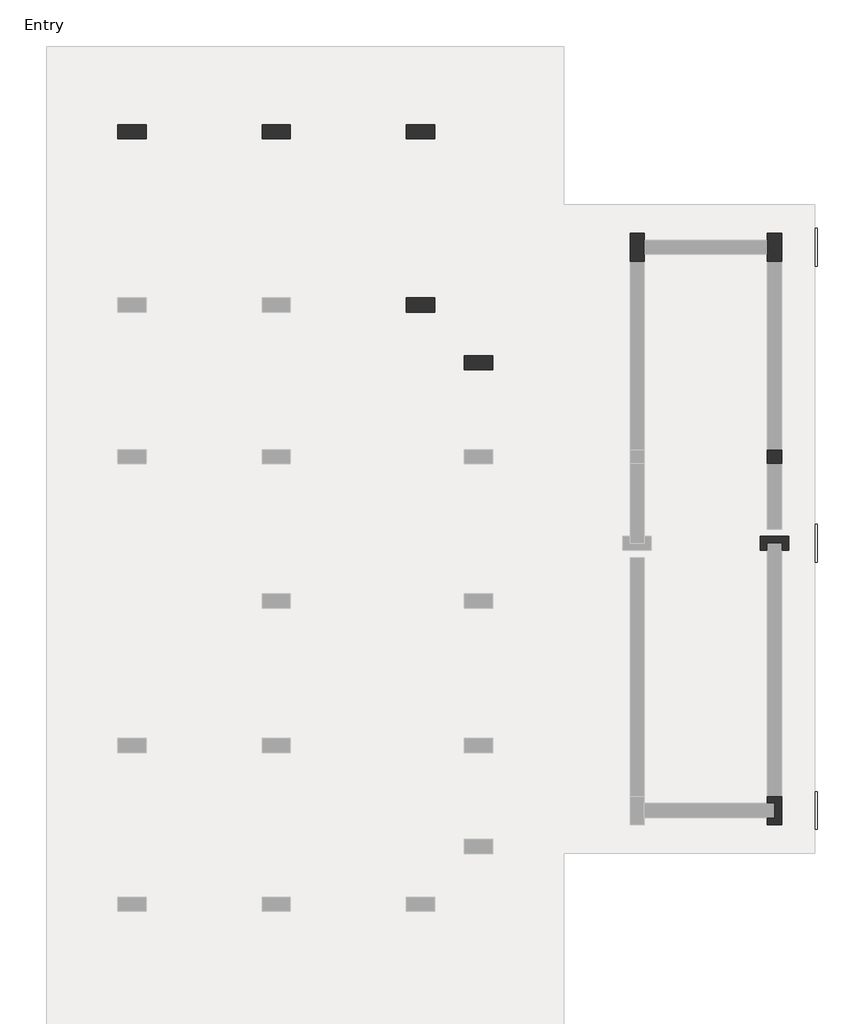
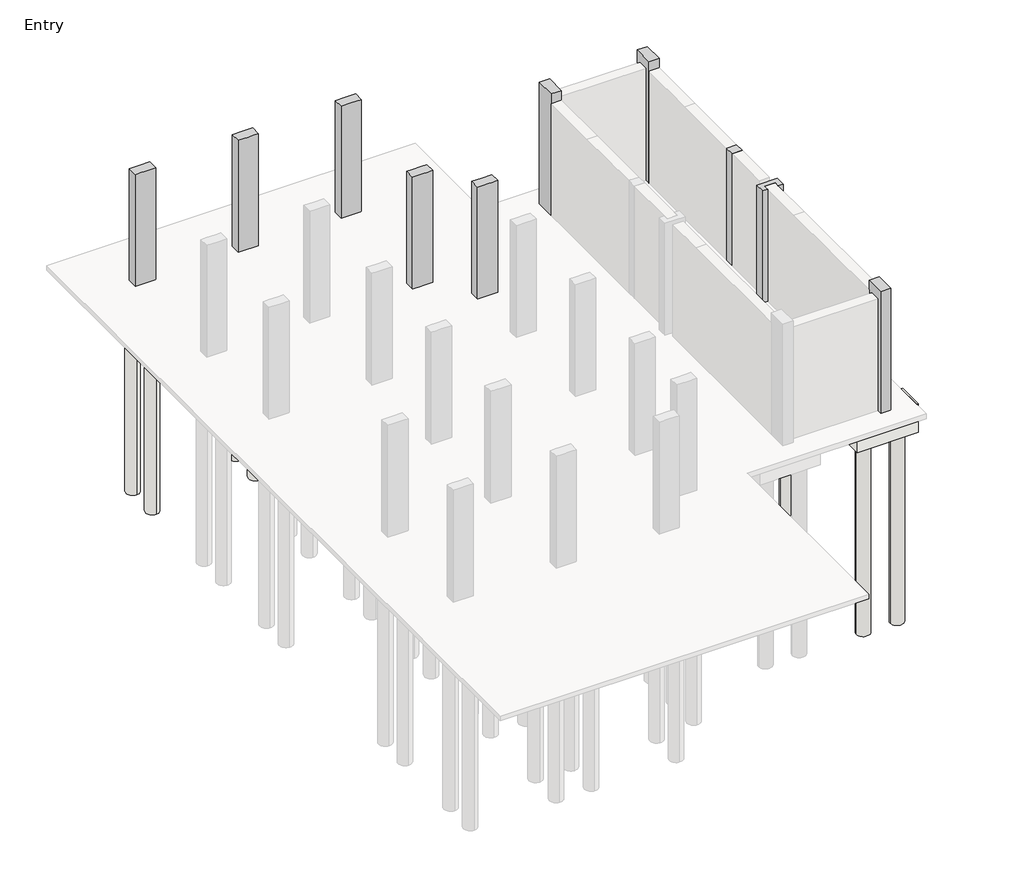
# One storey, part 3 of 3: 32 slabs, 10 columns, 5 footings.
"""IFC4 building model written with IfcOpenShell, lengths in millimetres."""

import ifcopenshell
import ifcopenshell.guid

model = None  # the IFC model being written
_history = None  # IfcOwnerHistory: only IFC2X3 demands one
_inside = {}  # id of a spatial element -> (the spatial element, [elements in it])
_under = {}  # id of a project, library or spatial element -> (it, [spatial elements below it])
_declared = {}  # id of a project -> (the project, [libraries it declares])
_typed = {}  # id of a type object -> (the type object, [elements of that type])
_made_of = {}  # id of a material, layer set ... -> (it, [elements and type objects made of it])


def new_model(schema):
    """Start an empty IFC model of exactly this schema.

    Asked for "IFC4X3", IfcOpenShell would pick the latest addendum, in which some entities
    have other attributes; the version numbers below select the first issue.
    IFC2X3 requires an IfcOwnerHistory on every rooted entity: one is made here for all.
    """
    global model, _history
    if schema == "IFC4X3":
        model = ifcopenshell.file(schema_version=(4, 3, 0, 0))
    else:
        model = ifcopenshell.file(schema=schema)
    _inside.clear()
    _under.clear()
    _declared.clear()
    _typed.clear()
    _made_of.clear()
    _history = None
    if model.schema == "IFC2X3":
        org = make("IfcOrganization", Name="unknown")
        user = make(
            "IfcPersonAndOrganization",
            ThePerson=make("IfcPerson", FamilyName="unknown"),
            TheOrganization=org,
        )
        app = make(
            "IfcApplication",
            ApplicationDeveloper=org,
            Version="unknown",
            ApplicationFullName="unknown",
            ApplicationIdentifier="unknown",
        )
        _history = make(
            "IfcOwnerHistory",
            OwningUser=user,
            OwningApplication=app,
            ChangeAction="ADDED",
            CreationDate=0,
        )
    return model


def make(cls, **values):
    """One entity of the class cls with the attributes given. An attribute that is None is left unset."""
    return model.create_entity(
        cls, **{name: value for name, value in values.items() if value is not None}
    )


def rooted(cls, **values):
    """An entity with a GlobalId (a new one), such as an element, a storey or a relation."""
    return make(cls, GlobalId=ifcopenshell.guid.new(), OwnerHistory=_history, **values)


def si_unit(unit_type, name, prefix=None):
    """IfcSIUnit, for example si_unit("LENGTHUNIT", "METRE", prefix="MILLI")."""
    return make("IfcSIUnit", UnitType=unit_type, Prefix=prefix, Name=name)


def assignment(units):
    """IfcUnitAssignment: the units of a project."""
    return None if units is None else make("IfcUnitAssignment", Units=units)


def point(xyz):
    """IfcCartesianPoint."""
    return None if xyz is None else make("IfcCartesianPoint", Coordinates=xyz)


def direction(xyz):
    """IfcDirection."""
    return None if xyz is None else make("IfcDirection", DirectionRatios=xyz)


def frame(location, z_axis=None, x_axis=None):
    """IfcAxis2Placement3D, a coordinate frame: its origin and axes. An axis left out is left unset."""
    return make(
        "IfcAxis2Placement3D",
        Location=point(location),
        Axis=direction(z_axis),
        RefDirection=direction(x_axis),
    )


def frame_2d(location, x_axis=None):
    """IfcAxis2Placement2D, a coordinate frame in the plane: its origin and x axis."""
    return make(
        "IfcAxis2Placement2D", Location=point(location), RefDirection=direction(x_axis)
    )


def origin():
    """The frame at (0, 0, 0) with its axes left unset."""
    return frame((0.0, 0.0, 0.0))


def origin_with_axes():
    """The frame at (0, 0, 0) with the z axis (0, 0, 1) and the x axis (1, 0, 0) written out."""
    return frame((0.0, 0.0, 0.0), z_axis=(0.0, 0.0, 1.0), x_axis=(1.0, 0.0, 0.0))


def place(relative_to, where):
    """IfcLocalPlacement: puts the frame where relative to a parent placement (None: the world)."""
    return make(
        "IfcLocalPlacement", PlacementRelTo=relative_to, RelativePlacement=where
    )


def context(
    kind, dimensions, precision=None, world=None, true_north=None, identifier=None
):
    """IfcGeometricRepresentationContext, for example the 3D "Model" context."""
    return make(
        "IfcGeometricRepresentationContext",
        ContextIdentifier=identifier,
        ContextType=kind,
        CoordinateSpaceDimension=dimensions,
        Precision=precision,
        WorldCoordinateSystem=world,
        TrueNorth=true_north,
    )


def project(units=None, contexts=None):
    """IfcProject with its units and contexts."""
    return rooted(
        "IfcProject",
        Name="project",
        RepresentationContexts=contexts,
        UnitsInContext=assignment(units),
    )


def spatial(cls, under=None, at=None, **own):
    """A site, building, storey or space (cls), placed at a placement, below another one or the project."""
    s = rooted(cls, ObjectPlacement=at, **own)
    if under is not None:
        _under.setdefault(under.id(), (under, []))[1].append(s)
    return s


def polyline(points):
    """IfcPolyline through the points."""
    return make("IfcPolyline", Points=[point(p) for p in points])


def circle_curve(where, radius):
    """IfcCircle in the frame where."""
    return make("IfcCircle", Position=where, Radius=radius)


def trimmed(basis, trim1, trim2, sense, master):
    """IfcTrimmedCurve: the piece of a basis curve between two trims."""
    return make(
        "IfcTrimmedCurve",
        BasisCurve=basis,
        Trim1=trim1,
        Trim2=trim2,
        SenseAgreement=sense,
        MasterRepresentation=master,
    )


def segment(curve, same_sense, transition):
    """IfcCompositeCurveSegment."""
    return make(
        "IfcCompositeCurveSegment",
        Transition=transition,
        SameSense=same_sense,
        ParentCurve=curve,
    )


def composite_curve(segments, self_intersect=None):
    """IfcCompositeCurve: segments joined end to end."""
    return make("IfcCompositeCurve", Segments=segments, SelfIntersect=self_intersect)


def outline(outer, holes=None, kind="AREA"):
    """IfcArbitraryClosedProfileDef: a profile drawn as a closed curve; with holes, ...WithVoids."""
    if holes is None:
        return make("IfcArbitraryClosedProfileDef", ProfileType=kind, OuterCurve=outer)
    return make(
        "IfcArbitraryProfileDefWithVoids",
        ProfileType=kind,
        OuterCurve=outer,
        InnerCurves=holes,
    )


def extrude(swept, where, along, depth):
    """IfcExtrudedAreaSolid: the profile swept, set in the frame where, extruded along a direction by depth."""
    return make(
        "IfcExtrudedAreaSolid",
        SweptArea=swept,
        Position=where,
        ExtrudedDirection=direction(along),
        Depth=depth,
    )


def faces_of(points, faces, orient=None, outer=None):
    """IfcFace entities. A face is a list of loops; a loop is a list of indices into points, from 0.

    orient and outer hold one flag for each loop. By default every Orientation is true, the
    first loop of a face is its IfcFaceOuterBound and the others are IfcFaceBound.
    """
    made = []
    for i, loops in enumerate(faces):
        bounds = []
        for j, loop in enumerate(loops):
            is_outer = j == 0 if outer is None else outer[i][j]
            bounds.append(
                make(
                    "IfcFaceOuterBound" if is_outer else "IfcFaceBound",
                    Bound=make("IfcPolyLoop", Polygon=[points[k] for k in loop]),
                    Orientation=True if orient is None else orient[i][j],
                )
            )
        made.append(make("IfcFace", Bounds=bounds))
    return made


def faceted_brep(points, faces, orient=None, outer=None, voids=None):
    """IfcFacetedBrep: a solid bounded by flat faces; with voids (closed shells), ...WithVoids."""
    shared = [point(p) for p in points]
    hull = make("IfcClosedShell", CfsFaces=faces_of(shared, faces, orient, outer))
    if voids is None:
        return make("IfcFacetedBrep", Outer=hull)
    return make(
        "IfcFacetedBrepWithVoids",
        Outer=hull,
        Voids=[
            make(cls, CfsFaces=faces_of(shared, fs, o, b)) for cls, fs, o, b in voids
        ],
    )


def shape(context_of_items, identifier, shape_type, items):
    """IfcShapeRepresentation: the items that make up one representation, for example the "Body"."""
    return make(
        "IfcShapeRepresentation",
        ContextOfItems=context_of_items,
        RepresentationIdentifier=identifier,
        RepresentationType=shape_type,
        Items=items,
    )


def made_of(thing, what):
    """Note that an element or type object is made of a material, layer set ...; save() writes the relation."""
    if what is not None:
        _made_of.setdefault(what.id(), (what, []))[1].append(thing)
    return thing


def element(
    cls,
    number,
    at=None,
    inside=None,
    cuts=None,
    type_object=None,
    material=None,
    context=None,
    identifier="Body",
    shape_type=None,
    held_by="IfcProductDefinitionShape",
    body=None,
    shapes=None,
    **own,
):
    """One element of the class cls, such as IfcWall. Its Tag is "e" and its number.

    at: its placement. inside: the storey or other place that contains it. cuts: it is an
    opening in that element (IfcRelVoidsElement). A single representation is given by context,
    identifier, shape_type and body (its items); several are given by shapes. held_by: the class
    of the entity that holds the representations. save() writes the other relations.
    """
    e = rooted(cls, Tag="e%d" % number, ObjectPlacement=at, **own)
    if body is not None:
        shapes = [shape(context, identifier, shape_type, body)]
    if shapes is not None:
        e.Representation = make(held_by, Representations=shapes)
    if inside is not None:
        _inside.setdefault(inside.id(), (inside, []))[1].append(e)
    if cuts is not None:
        rooted(
            "IfcRelVoidsElement", RelatingBuildingElement=cuts, RelatedOpeningElement=e
        )
    if type_object is not None:
        _typed.setdefault(type_object.id(), (type_object, []))[1].append(e)
    return made_of(e, material)


def aggregate(whole, parts):
    """IfcRelAggregates: a whole, such as a stair, and the parts it consists of."""
    return rooted("IfcRelAggregates", RelatingObject=whole, RelatedObjects=parts)


def save(model, path):
    """Write the relations noted so far, then the file.

    IfcRelAggregates (storeys below a building ...), IfcRelContainedInSpatialStructure (elements
    in a storey), IfcRelDefinesByType, IfcRelAssociatesMaterial and IfcRelDeclares: one each for
    every whole, place, type object, material and project.
    """
    for whole, parts in _under.values():
        aggregate(whole, parts)
    for where, things in _inside.values():
        rooted(
            "IfcRelContainedInSpatialStructure",
            RelatedElements=things,
            RelatingStructure=where,
        )
    for kind, things in _typed.values():
        rooted("IfcRelDefinesByType", RelatedObjects=things, RelatingType=kind)
    for what, things in _made_of.values():
        rooted("IfcRelAssociatesMaterial", RelatedObjects=things, RelatingMaterial=what)
    for by, libraries in _declared.values():
        rooted("IfcRelDeclares", RelatingContext=by, RelatedDefinitions=libraries)
    model.write(path)


model = new_model("IFC4")

# Units and contexts
model_context = context("Model", 3, world=origin())
ifc_project = project(units=[si_unit("LENGTHUNIT", "METRE", prefix="MILLI")], contexts=[model_context])

# Site, building, storey
site = spatial("IfcSite", under=ifc_project)
building = spatial("IfcBuilding", under=site)
storey = spatial("IfcBuildingStorey", under=building, Name="Entry", Elevation=0.0)

# Columns
placement = place(None, origin())
element("IfcColumn", 1, ObjectType="M_Concrete-Rectangular-Column : 300 x 600mm", at=placement, inside=storey, context=model_context, shape_type="Brep", body=[
    faceted_brep([(-13131.3472303, 14876.016665, 0.0), (-12531.3472303, 14876.016665, 0.0), (-12531.3472303, 14576.016665, 0.0), (-13131.3472303, 14576.016665, 0.0), (-13131.3472303, 14876.016665, 3505.2), (-12831.3472303, 14876.016665, 3505.2), (-12531.3472303, 14876.016665, 3505.2), (-12531.3472303, 14876.016665, 2910.0), (-12531.3472303, 14576.016665, 3505.2), (-12531.3472303, 14576.016665, 2910.0), (-12831.3472303, 14576.016665, 3505.2), (-12981.3472303, 14576.016665, 3505.2), (-13131.3472303, 14576.016665, 3505.2)], [[[0, 1, 2, 3]], [[4, 5, 6, 7, 1, 0]], [[6, 8, 9, 2, 1, 7]], [[8, 10, 11, 12, 3, 2, 9]], [[12, 4, 0, 3]], [[4, 12, 11, 10, 8, 6, 5]]]),
])
element("IfcColumn", 2, ObjectType="M_Concrete-Rectangular-Column : 300 x 600mm", at=placement, inside=storey, context=model_context, shape_type="Brep", body=[
    faceted_brep([(-10083.3472303, 14876.016665, 0.0), (-9483.3472303, 14876.016665, 0.0), (-9483.3472303, 14576.016665, 0.0), (-10083.3472303, 14576.016665, 0.0), (-10083.3472303, 14876.016665, 3505.2), (-9783.3472303, 14876.016665, 3505.2), (-9483.3472303, 14876.016665, 3505.2), (-9483.3472303, 14876.016665, 2910.0), (-10083.3472303, 14876.016665, 2910.0), (-9483.3472303, 14576.016665, 3505.2), (-9483.3472303, 14576.016665, 2910.0), (-9633.3472303, 14576.016665, 3505.2), (-9783.3472303, 14576.016665, 3505.2), (-10083.3472303, 14576.016665, 3505.2), (-10083.3472303, 14576.016665, 2910.0)], [[[0, 1, 2, 3]], [[4, 5, 6, 7, 1, 0, 8]], [[6, 9, 10, 2, 1, 7]], [[9, 11, 12, 13, 14, 3, 2, 10]], [[13, 4, 8, 0, 3, 14]], [[4, 13, 12, 11, 9, 6, 5]]]),
])
element("IfcColumn", 3, ObjectType="M_Concrete-Rectangular-Column : 300 x 600mm", at=placement, inside=storey, context=model_context, shape_type="Brep", body=[
    faceted_brep([(-7035.3472303, 14876.016665, 0.0), (-6435.3472303, 14876.016665, 0.0), (-6435.3472303, 14576.016665, 0.0), (-7035.3472303, 14576.016665, 0.0), (-7035.3472303, 14876.016665, 3505.2), (-6735.3472303, 14876.016665, 3505.2), (-6435.3472303, 14876.016665, 3505.2), (-7035.3472303, 14876.016665, 2910.0), (-6435.3472303, 14576.016665, 3505.2), (-6585.3472303, 14576.016665, 3505.2), (-6735.3472303, 14576.016665, 3505.2), (-7035.3472303, 14576.016665, 3505.2), (-7035.3472303, 14576.016665, 2910.0)], [[[0, 1, 2, 3]], [[4, 5, 6, 1, 0, 7]], [[6, 8, 2, 1]], [[8, 9, 10, 11, 12, 3, 2]], [[11, 4, 7, 0, 3, 12]], [[4, 11, 10, 9, 8, 6, 5]]]),
])
element("IfcColumn", 4, ObjectType="M_Concrete-Rectangular-Column : 300 x 600mm", at=placement, inside=storey, context=model_context, shape_type="Brep", body=[
    faceted_brep([(-7035.3472303, 11219.016665, 0.0), (-6435.3472303, 11219.016665, 0.0), (-6435.3472303, 10919.016665, 0.0), (-7035.3472303, 10919.016665, 0.0), (-7035.3472303, 11219.016665, 3505.2), (-6885.3472303, 11219.016665, 3505.2), (-6585.3472303, 11219.016665, 3505.2), (-6435.3472303, 11219.016665, 3505.2), (-7035.3472303, 11219.016665, 2910.0), (-6435.3472303, 10919.016665, 3505.2), (-6585.3472303, 10919.016665, 3505.2), (-6735.3472303, 10919.016665, 3505.2), (-7035.3472303, 10919.016665, 3505.2), (-7035.3472303, 10919.016665, 2910.0)], [[[0, 1, 2, 3]], [[4, 5, 6, 7, 1, 0, 8]], [[7, 9, 2, 1]], [[9, 10, 11, 12, 13, 3, 2]], [[12, 4, 8, 0, 3, 13]], [[4, 12, 11, 10, 9, 7, 6, 5]]]),
])
element("IfcColumn", 5, ObjectType="M_Concrete-Rectangular-Column : 300 x 600mm", at=placement, inside=storey, context=model_context, shape_type="Brep", body=[
    faceted_brep([(-5816.3472303, 10000.016665, 0.0), (-5216.3472303, 10000.016665, 0.0), (-5216.3472303, 9700.016665, 0.0), (-5816.3472303, 9700.016665, 0.0), (-5816.3472303, 10000.016665, 3505.2), (-5516.3472303, 10000.016665, 3505.2), (-5216.3472303, 10000.016665, 3505.2), (-5816.3472303, 10000.016665, 2910.0), (-5216.3472303, 9700.016665, 3505.2), (-5366.3472303, 9700.016665, 3505.2), (-5516.3472303, 9700.016665, 3505.2), (-5816.3472303, 9700.016665, 3505.2), (-5816.3472303, 9700.016665, 2910.0)], [[[0, 1, 2, 3]], [[4, 5, 6, 1, 0, 7]], [[6, 8, 2, 1]], [[8, 9, 10, 11, 12, 3, 2]], [[11, 4, 7, 0, 3, 12]], [[4, 11, 10, 9, 8, 6, 5]]]),
])
element("IfcColumn", 6, ObjectType="M_Concrete-Rectangular-Column : 300 x 600mm", at=placement, inside=storey, context=model_context, shape_type="SweptSolid", body=[
    extrude(outline(polyline([(582.6527697, 8019.016665), (882.6527697, 8019.016665), (882.6527697, 7719.016665), (582.6527697, 7719.016665), (582.6527697, 8019.016665)])), origin_with_axes(), (0.0, 0.0, 1.0), 3510.0),
])
element("IfcColumn", 7, ObjectType="M_Concrete-Rectangular-Column : 300 x 600mm", at=placement, inside=storey, context=model_context, shape_type="Brep", body=[
    faceted_brep([(-2313.3472303, 11988.016665, 0.0), (-2313.3472303, 12588.016665, 0.0), (-2013.3472303, 12588.016665, 0.0), (-2013.3472303, 12438.016665, 0.0), (-2013.3472303, 12138.016665, 0.0), (-2013.3472303, 11988.016665, 0.0), (-2313.3472303, 11988.016665, 3810.0), (-2313.3472303, 12588.016665, 3810.0), (-2313.3472303, 11988.016665, 3510.0), (-2013.3472303, 12588.016665, 3810.0), (-2013.3472303, 11988.016665, 3810.0), (-2013.3472303, 11988.016665, 3510.0)], [[[0, 1, 2, 3, 4, 5]], [[6, 7, 1, 0, 8]], [[7, 9, 2, 1]], [[9, 10, 11, 5, 4, 3, 2]], [[10, 6, 8, 0, 5, 11]], [[6, 10, 9, 7]]]),
])
element("IfcColumn", 8, ObjectType="M_Concrete-Rectangular-Column : 300 x 600mm", at=placement, inside=storey, context=model_context, shape_type="Brep", body=[
    faceted_brep([(582.6527697, 11988.016665, 0.0), (582.6527697, 12138.016665, 0.0), (582.6527697, 12438.016665, 0.0), (582.6527697, 12588.016665, 0.0), (882.6527697, 12588.016665, 0.0), (882.6527697, 11988.016665, 0.0), (582.6527697, 11988.016665, 3810.0), (582.6527697, 12588.016665, 3810.0), (582.6527697, 11988.016665, 3510.0), (882.6527697, 12588.016665, 3810.0), (882.6527697, 11988.016665, 3810.0), (882.6527697, 11988.016665, 3510.0)], [[[0, 1, 2, 3, 4, 5]], [[6, 7, 3, 2, 1, 0, 8]], [[7, 9, 4, 3]], [[9, 10, 11, 5, 4]], [[10, 6, 8, 0, 5, 11]], [[6, 10, 9, 7]]]),
])
element("IfcColumn", 9, ObjectType="M_Concrete-Rectangular-Column : 300 x 600mm", at=placement, inside=storey, context=model_context, shape_type="Brep", body=[
    faceted_brep([(582.6527697, 701.016665, 0.0), (882.6527697, 701.016665, 0.0), (882.6527697, 101.016665, 0.0), (582.6527697, 101.016665, 0.0), (582.6527697, 251.016665, 0.0), (732.6527697, 251.016665, 0.0), (732.6527697, 551.016665, 0.0), (582.6527697, 551.016665, 0.0), (582.6527697, 101.016665, 3810.0), (582.6527697, 701.016665, 3810.0), (582.6527697, 701.016665, 3510.0), (582.6527697, 551.016665, 3510.0), (582.6527697, 251.016665, 3510.0), (882.6527697, 701.016665, 3810.0), (882.6527697, 701.016665, 3510.0), (882.6527697, 101.016665, 3810.0), (732.6527697, 551.016665, 3510.0), (732.6527697, 251.016665, 3510.0)], [[[0, 1, 2, 3, 4, 5, 6, 7]], [[8, 9, 10, 0, 7, 11, 12, 4, 3]], [[1, 0, 10, 9, 13, 14]], [[2, 1, 14, 13, 15]], [[3, 2, 15, 8]], [[9, 8, 15, 13]], [[6, 16, 11, 7]], [[17, 5, 4, 12]], [[16, 17, 12, 11]], [[16, 6, 5, 17]]]),
])
element("IfcColumn", 10, ObjectType="M_Concrete-Rectangular-Column : 300 x 600mm", at=placement, inside=storey, context=model_context, shape_type="SweptSolid", body=[
    extrude(outline(polyline([(432.6527697, 5890.016665), (432.6527697, 6190.016665), (1032.6527697, 6190.016665), (1032.6527697, 5890.016665), (882.6527697, 5890.016665), (882.6527697, 6040.016665), (582.6527697, 6040.016665), (582.6527697, 5890.016665), (432.6527697, 5890.016665)])), origin_with_axes(), (0.0, 0.0, 1.0), 3510.0),
])

# Footings
element("IfcFooting", 11, ObjectType="Bearing Footing - 900 x 300", at=placement, inside=storey, context=model_context, shape_type="Brep", body=[
    faceted_brep([(-2013.3472303, 12738.016665, -300.0), (-2013.3472303, 12688.016665, -300.0), (-2013.3472303, 12688.016665, -150.0), (-2013.3472303, 12738.016665, -150.0), (-2013.3472303, 11888.016665, -300.0), (-2013.3472303, 11838.016665, -300.0), (-2013.3472303, 11838.016665, -150.0), (-2013.3472303, 11888.016665, -150.0), (582.6527697, 12688.016665, -300.0), (582.6527697, 12738.016665, -300.0), (582.6527697, 12738.016665, -150.0), (582.6527697, 12688.016665, -150.0), (582.6527697, 11838.016665, -300.0), (582.6527697, 11888.016665, -300.0), (582.6527697, 11888.016665, -150.0), (582.6527697, 11838.016665, -150.0), (-167.3472303, 12688.016665, -300.0), (-167.3472303, 11888.016665, -300.0), (282.6527697, 11838.016665, -300.0), (-1713.3472303, 11838.016665, -300.0), (-1263.3472303, 11888.016665, -300.0), (-1263.3472303, 12688.016665, -300.0), (282.6527697, 11838.016665, -150.0), (-1713.3472303, 11838.016665, -150.0), (-1263.3472303, 11888.016665, -150.0), (-1263.3472303, 12688.016665, -150.0), (-167.3472303, 11888.016665, -150.0), (-167.3472303, 12688.016665, -150.0)], [[[0, 1, 2, 3]], [[4, 5, 6, 7]], [[8, 9, 10, 11]], [[12, 13, 14, 15]], [[9, 0, 3, 10]], [[0, 9, 8, 16, 17, 13, 12, 18, 19, 5, 4, 20, 21, 1]], [[5, 19, 18, 12, 15, 22, 23, 6]], [[20, 4, 7, 24]], [[21, 20, 24, 25]], [[1, 21, 25, 2]], [[13, 17, 26, 14]], [[16, 8, 11, 27]], [[17, 16, 27, 26]], [[3, 2, 25, 24, 7, 6, 23, 22, 15, 14, 26, 27, 11, 10]]]),
])
element("IfcFooting", 12, ObjectType="Bearing Footing - 900 x 300", at=placement, inside=storey, context=model_context, shape_type="SweptSolid", body=[
    extrude(outline(polyline([(1182.6527697, 11888.016665), (1182.6527697, 8019.016665), (1132.6527697, 8019.016665), (1132.6527697, 8769.016665), (332.6527697, 8769.016665), (332.6527697, 8019.016665), (282.6527697, 8019.016665), (282.6527697, 11838.016665), (582.6527697, 11838.016665), (582.6527697, 11888.016665), (1182.6527697, 11888.016665)])), frame((0.0, 0.0, -300.0), z_axis=(0.0, 0.0, 1.0), x_axis=(1.0, 0.0, 0.0)), (0.0, 0.0, 1.0), 150.0),
])
element("IfcFooting", 13, ObjectType="Bearing Footing - 900 x 300", at=placement, inside=storey, context=model_context, shape_type="SweptSolid", body=[
    extrude(outline(polyline([(282.6527697, 7719.016665), (332.6527697, 7719.016665), (332.6527697, 6969.016665), (1132.6527697, 6969.016665), (1132.6527697, 7719.016665), (1182.6527697, 7719.016665), (1182.6527697, 6440.016665), (282.6527697, 6440.016665), (282.6527697, 7719.016665)])), frame((0.0, 0.0, -300.0), z_axis=(0.0, 0.0, 1.0), x_axis=(1.0, 0.0, 0.0)), (0.0, 0.0, 1.0), 150.0),
])
element("IfcFooting", 14, ObjectType="Bearing Footing - 900 x 300", at=placement, inside=storey, context=model_context, shape_type="Brep", body=[
    faceted_brep([(1182.6527697, 801.016665, -300.0), (1182.6527697, 5640.016665, -300.0), (1182.6527697, 5640.016665, -150.0), (1182.6527697, 801.016665, -150.0), (282.6527697, 801.016665, -300.0), (282.6527697, 851.016665, -300.0), (282.6527697, 5640.016665, -300.0), (282.6527697, 801.016665, -150.0), (282.6527697, 851.016665, -150.0), (282.6527697, 5640.016665, -150.0)], [[[0, 1, 2, 3]], [[0, 4, 5, 6, 1]], [[6, 5, 4, 7, 8, 9]], [[4, 0, 3, 7]], [[1, 6, 9, 2]], [[3, 2, 9, 8, 7]]]),
])
element("IfcFooting", 15, ObjectType="Bearing Footing - 900 x 300", at=placement, inside=storey, context=model_context, shape_type="SweptSolid", body=[
    extrude(outline(polyline([(-2613.3472303, 8019.016665), (-2613.3472303, 11888.016665), (-2013.3472303, 11888.016665), (-2013.3472303, 11838.016665), (-1713.3472303, 11838.016665), (-1713.3472303, 8019.016665), (-1763.3472303, 8019.016665), (-1763.3472303, 8769.016665), (-2563.3472303, 8769.016665), (-2563.3472303, 8019.016665), (-2613.3472303, 8019.016665)])), frame((0.0, 0.0, -300.0), z_axis=(0.0, 0.0, 1.0), x_axis=(1.0, 0.0, 0.0)), (0.0, 0.0, 1.0), 150.0),
])

# Slabs
element("IfcSlab", 16, ObjectType="M_Pile Cap-2 Pile : 800 x 1500 x 900", at=placement, inside=storey, context=model_context, shape_type="SweptSolid", body=[
    extrude(outline(polyline([(-13231.3472303, 15626.016665), (-12431.3472303, 15626.016665), (-12431.3472303, 13826.016665), (-13231.3472303, 13826.016665), (-13231.3472303, 15626.016665)])), frame((0.0, 0.0, -900.0), z_axis=(0.0, 0.0, 1.0), x_axis=(1.0, 0.0, 0.0)), (0.0, 0.0, 1.0), 750.0),
])
element("IfcSlab", 17, ObjectType="M_Pile Cap-2 Pile : 800 x 1500 x 900", at=placement, inside=storey, context=model_context, shape_type="SweptSolid", body=[
    extrude(outline(polyline([(-10183.3472303, 15626.016665), (-9383.3472303, 15626.016665), (-9383.3472303, 13826.016665), (-10183.3472303, 13826.016665), (-10183.3472303, 15626.016665)])), frame((0.0, 0.0, -900.0), z_axis=(0.0, 0.0, 1.0), x_axis=(1.0, 0.0, 0.0)), (0.0, 0.0, 1.0), 750.0),
])
element("IfcSlab", 18, ObjectType="M_Pile Cap-2 Pile : 800 x 1500 x 900", at=placement, inside=storey, context=model_context, shape_type="SweptSolid", body=[
    extrude(outline(polyline([(-7135.3472303, 15626.016665), (-6335.3472303, 15626.016665), (-6335.3472303, 13826.016665), (-7135.3472303, 13826.016665), (-7135.3472303, 15626.016665)])), frame((0.0, 0.0, -900.0), z_axis=(0.0, 0.0, 1.0), x_axis=(1.0, 0.0, 0.0)), (0.0, 0.0, 1.0), 750.0),
])
element("IfcSlab", 19, ObjectType="M_Pile Cap-2 Pile : 800 x 1500 x 900", at=placement, inside=storey, context=model_context, shape_type="SweptSolid", body=[
    extrude(outline(polyline([(-7135.3472303, 11969.016665), (-6335.3472303, 11969.016665), (-6335.3472303, 10169.016665), (-7135.3472303, 10169.016665), (-7135.3472303, 11969.016665)])), frame((0.0, 0.0, -900.0), z_axis=(0.0, 0.0, 1.0), x_axis=(1.0, 0.0, 0.0)), (0.0, 0.0, 1.0), 750.0),
])
element("IfcSlab", 20, ObjectType="M_Pile Cap-2 Pile : 800 x 1500 x 900", at=placement, inside=storey, context=model_context, shape_type="Brep", body=[
    faceted_brep([(-3063.3472303, 11888.016665, -900.0), (-3063.3472303, 12688.016665, -900.0), (-1263.3472303, 12688.016665, -900.0), (-1263.3472303, 11888.016665, -900.0), (-1263.3472303, 11888.016665, -300.0), (-1263.3472303, 11888.016665, -150.0), (-2013.3472303, 11888.016665, -150.0), (-2613.3472303, 11888.016665, -150.0), (-3063.3472303, 11888.016665, -150.0), (-1263.3472303, 12688.016665, -300.0), (-1263.3472303, 12688.016665, -150.0), (-3063.3472303, 12688.016665, -150.0), (-2013.3472303, 12688.016665, -150.0)], [[[0, 1, 2, 3]], [[0, 3, 4, 5, 6, 7, 8]], [[3, 2, 9, 10, 5, 4]], [[2, 1, 11, 12, 10, 9]], [[1, 0, 8, 11]], [[8, 7, 6, 5, 10, 12, 11]]]),
])
element("IfcSlab", 21, ObjectType="M_Pile Cap-2 Pile : 800 x 1500 x 900", at=placement, inside=storey, context=model_context, shape_type="Brep", body=[
    faceted_brep([(1632.6527697, 11888.016665, 0.0), (1632.6527697, 12688.016665, 0.0), (1583.6527697, 12688.016665, 0.0), (1583.6527697, 11888.016665, 0.0), (-167.3472303, 11888.016665, -900.0), (-167.3472303, 12688.016665, -900.0), (1632.6527697, 12688.016665, -900.0), (1632.6527697, 11888.016665, -900.0), (1583.6527697, 11888.016665, -150.0), (1182.6527697, 11888.016665, -150.0), (582.6527697, 11888.016665, -150.0), (-167.3472303, 11888.016665, -150.0), (-167.3472303, 11888.016665, -300.0), (-167.3472303, 12688.016665, -300.0), (-167.3472303, 12688.016665, -150.0), (582.6527697, 12688.016665, -150.0), (1583.6527697, 12688.016665, -150.0)], [[[0, 1, 2, 3]], [[4, 5, 6, 7]], [[4, 7, 0, 3, 8, 9, 10, 11, 12]], [[1, 0, 7, 6]], [[6, 5, 13, 14, 15, 16, 2, 1]], [[5, 4, 12, 11, 14, 13]], [[8, 16, 15, 14, 11, 10, 9]], [[16, 8, 3, 2]]]),
])
element("IfcSlab", 22, ObjectType="M_Pile Cap-2 Pile : 800 x 1500 x 900", at=placement, inside=storey, context=model_context, shape_type="Brep", body=[
    faceted_brep([(332.6527697, 8769.016665, -900.0), (1132.6527697, 8769.016665, -900.0), (1132.6527697, 6969.016665, -900.0), (332.6527697, 6969.016665, -900.0), (332.6527697, 6969.016665, -300.0), (332.6527697, 6969.016665, -150.0), (332.6527697, 7719.016665, -150.0), (332.6527697, 8019.016665, -150.0), (332.6527697, 8769.016665, -150.0), (332.6527697, 8769.016665, -300.0), (1132.6527697, 6969.016665, -300.0), (1132.6527697, 6969.016665, -150.0), (1132.6527697, 8769.016665, -300.0), (1132.6527697, 8769.016665, -150.0), (1132.6527697, 8019.016665, -150.0), (1132.6527697, 7719.016665, -150.0)], [[[0, 1, 2, 3]], [[0, 3, 4, 5, 6, 7, 8, 9]], [[3, 2, 10, 11, 5, 4]], [[2, 1, 12, 13, 14, 15, 11, 10]], [[1, 0, 9, 8, 13, 12]], [[8, 7, 6, 5, 11, 15, 14, 13]]]),
])
element("IfcSlab", 23, ObjectType="M_Pile Cap-2 Pile : 800 x 1500 x 900", at=placement, inside=storey, context=model_context, shape_type="Brep", body=[
    faceted_brep([(1632.6527697, 1.016665, 0.0), (1632.6527697, 801.016665, 0.0), (1583.6527697, 801.016665, 0.0), (1583.6527697, 1.016665, 0.0), (-167.3472303, 1.016665, -900.0), (-167.3472303, 801.016665, -900.0), (1632.6527697, 801.016665, -900.0), (1632.6527697, 1.016665, -900.0), (1583.6527697, 1.016665, -150.0), (732.6527697, 1.016665, -150.0), (-167.3472303, 1.016665, -150.0), (-167.3472303, 1.016665, -300.0), (-167.3472303, 801.016665, -300.0), (-167.3472303, 801.016665, -150.0), (282.6527697, 801.016665, -150.0), (1182.6527697, 801.016665, -150.0), (1583.6527697, 801.016665, -150.0)], [[[0, 1, 2, 3]], [[4, 5, 6, 7]], [[4, 7, 0, 3, 8, 9, 10, 11]], [[1, 0, 7, 6]], [[6, 5, 12, 13, 14, 15, 16, 2, 1]], [[5, 4, 11, 10, 13, 12]], [[8, 16, 15, 14, 13, 10, 9]], [[16, 8, 3, 2]]]),
])
element("IfcSlab", 24, ObjectType="M_Pile Cap-2 Pile : 800 x 1500 x 900", at=placement, inside=storey, context=model_context, shape_type="Brep", body=[
    faceted_brep([(1632.6527697, 5640.016665, 0.0), (1632.6527697, 6440.016665, 0.0), (1583.6527697, 6440.016665, 0.0), (1583.6527697, 5640.016665, 0.0), (-167.3472303, 5640.016665, -900.0), (-167.3472303, 6440.016665, -900.0), (1632.6527697, 6440.016665, -900.0), (1632.6527697, 5640.016665, -900.0), (1583.6527697, 5640.016665, -150.0), (1182.6527697, 5640.016665, -150.0), (282.6527697, 5640.016665, -150.0), (-167.3472303, 5640.016665, -150.0), (-167.3472303, 6440.016665, -150.0), (282.6527697, 6440.016665, -150.0), (1182.6527697, 6440.016665, -150.0), (1583.6527697, 6440.016665, -150.0)], [[[0, 1, 2, 3]], [[4, 5, 6, 7]], [[4, 7, 0, 3, 8, 9, 10, 11]], [[1, 0, 7, 6]], [[6, 5, 12, 13, 14, 15, 2, 1]], [[5, 4, 11, 12]], [[8, 15, 14, 13, 12, 11, 10, 9]], [[15, 8, 3, 2]]]),
])
element("IfcSlab", 25, ObjectType="M_Pile Cap-2 Pile : 800 x 1500 x 900", at=placement, inside=storey, context=model_context, shape_type="SweptSolid", body=[
    extrude(outline(polyline([(-5813.3472303, 10750.016665), (-5013.3472303, 10750.016665), (-5013.3472303, 8950.016665), (-5813.3472303, 8950.016665), (-5813.3472303, 10750.016665)])), frame((0.0, 0.0, -900.0), z_axis=(0.0, 0.0, 1.0), x_axis=(1.0, 0.0, 0.0)), (0.0, 0.0, 1.0), 750.0),
])
element("IfcSlab", 26, ObjectType="M_Pile-Steel Pipe : 400mm Diameter", at=placement, inside=storey, context=model_context, shape_type="SweptSolid", body=[
    extrude(outline(composite_curve([segment(trimmed(circle_curve(frame_2d((-12831.3472303, 14226.016665)), 200.0), [point((-12831.3472303, 14026.016665))], [point((-12831.3472303, 14426.016665))], False, "CARTESIAN"), True, "CONTINUOUS"), segment(trimmed(circle_curve(frame_2d((-12831.3472303, 14226.016665)), 200.0), [point((-12831.3472303, 14426.016665))], [point((-12831.3472303, 14026.016665))], False, "CARTESIAN"), True, "CONTINUOUS")], self_intersect=False)), frame((0.0, 0.0, -6900.0), z_axis=(0.0, 0.0, 1.0), x_axis=(1.0, 0.0, 0.0)), (0.0, 0.0, 1.0), 6000.0),
])
element("IfcSlab", 27, ObjectType="M_Pile-Steel Pipe : 400mm Diameter", at=placement, inside=storey, context=model_context, shape_type="SweptSolid", body=[
    extrude(outline(composite_curve([segment(trimmed(circle_curve(frame_2d((-12831.3472303, 15226.016665)), 200.0), [point((-12831.3472303, 15026.016665))], [point((-12831.3472303, 15426.016665))], False, "CARTESIAN"), True, "CONTINUOUS"), segment(trimmed(circle_curve(frame_2d((-12831.3472303, 15226.016665)), 200.0), [point((-12831.3472303, 15426.016665))], [point((-12831.3472303, 15026.016665))], False, "CARTESIAN"), True, "CONTINUOUS")], self_intersect=False)), frame((0.0, 0.0, -6900.0), z_axis=(0.0, 0.0, 1.0), x_axis=(1.0, 0.0, 0.0)), (0.0, 0.0, 1.0), 6000.0),
])
element("IfcSlab", 28, ObjectType="M_Pile-Steel Pipe : 400mm Diameter", at=placement, inside=storey, context=model_context, shape_type="SweptSolid", body=[
    extrude(outline(composite_curve([segment(trimmed(circle_curve(frame_2d((-9783.3472303, 14226.016665)), 200.0), [point((-9783.3472303, 14026.016665))], [point((-9783.3472303, 14426.016665))], False, "CARTESIAN"), True, "CONTINUOUS"), segment(trimmed(circle_curve(frame_2d((-9783.3472303, 14226.016665)), 200.0), [point((-9783.3472303, 14426.016665))], [point((-9783.3472303, 14026.016665))], False, "CARTESIAN"), True, "CONTINUOUS")], self_intersect=False)), frame((0.0, 0.0, -6900.0), z_axis=(0.0, 0.0, 1.0), x_axis=(1.0, 0.0, 0.0)), (0.0, 0.0, 1.0), 6000.0),
])
element("IfcSlab", 29, ObjectType="M_Pile-Steel Pipe : 400mm Diameter", at=placement, inside=storey, context=model_context, shape_type="SweptSolid", body=[
    extrude(outline(composite_curve([segment(trimmed(circle_curve(frame_2d((-9783.3472303, 15226.016665)), 200.0), [point((-9783.3472303, 15026.016665))], [point((-9783.3472303, 15426.016665))], False, "CARTESIAN"), True, "CONTINUOUS"), segment(trimmed(circle_curve(frame_2d((-9783.3472303, 15226.016665)), 200.0), [point((-9783.3472303, 15426.016665))], [point((-9783.3472303, 15026.016665))], False, "CARTESIAN"), True, "CONTINUOUS")], self_intersect=False)), frame((0.0, 0.0, -6900.0), z_axis=(0.0, 0.0, 1.0), x_axis=(1.0, 0.0, 0.0)), (0.0, 0.0, 1.0), 6000.0),
])
element("IfcSlab", 30, ObjectType="M_Pile-Steel Pipe : 400mm Diameter", at=placement, inside=storey, context=model_context, shape_type="SweptSolid", body=[
    extrude(outline(composite_curve([segment(trimmed(circle_curve(frame_2d((-6735.3472303, 14226.016665)), 200.0), [point((-6735.3472303, 14026.016665))], [point((-6735.3472303, 14426.016665))], False, "CARTESIAN"), True, "CONTINUOUS"), segment(trimmed(circle_curve(frame_2d((-6735.3472303, 14226.016665)), 200.0), [point((-6735.3472303, 14426.016665))], [point((-6735.3472303, 14026.016665))], False, "CARTESIAN"), True, "CONTINUOUS")], self_intersect=False)), frame((0.0, 0.0, -6900.0), z_axis=(0.0, 0.0, 1.0), x_axis=(1.0, 0.0, 0.0)), (0.0, 0.0, 1.0), 6000.0),
])
element("IfcSlab", 31, ObjectType="M_Pile-Steel Pipe : 400mm Diameter", at=placement, inside=storey, context=model_context, shape_type="SweptSolid", body=[
    extrude(outline(composite_curve([segment(trimmed(circle_curve(frame_2d((-6735.3472303, 15226.016665)), 200.0), [point((-6735.3472303, 15026.016665))], [point((-6735.3472303, 15426.016665))], False, "CARTESIAN"), True, "CONTINUOUS"), segment(trimmed(circle_curve(frame_2d((-6735.3472303, 15226.016665)), 200.0), [point((-6735.3472303, 15426.016665))], [point((-6735.3472303, 15026.016665))], False, "CARTESIAN"), True, "CONTINUOUS")], self_intersect=False)), frame((0.0, 0.0, -6900.0), z_axis=(0.0, 0.0, 1.0), x_axis=(1.0, 0.0, 0.0)), (0.0, 0.0, 1.0), 6000.0),
])
element("IfcSlab", 32, ObjectType="M_Pile-Steel Pipe : 400mm Diameter", at=placement, inside=storey, context=model_context, shape_type="SweptSolid", body=[
    extrude(outline(composite_curve([segment(trimmed(circle_curve(frame_2d((-6735.3472303, 10569.016665)), 200.0), [point((-6735.3472303, 10369.016665))], [point((-6735.3472303, 10769.016665))], False, "CARTESIAN"), True, "CONTINUOUS"), segment(trimmed(circle_curve(frame_2d((-6735.3472303, 10569.016665)), 200.0), [point((-6735.3472303, 10769.016665))], [point((-6735.3472303, 10369.016665))], False, "CARTESIAN"), True, "CONTINUOUS")], self_intersect=False)), frame((0.0, 0.0, -6900.0), z_axis=(0.0, 0.0, 1.0), x_axis=(1.0, 0.0, 0.0)), (0.0, 0.0, 1.0), 6000.0),
])
element("IfcSlab", 33, ObjectType="M_Pile-Steel Pipe : 400mm Diameter", at=placement, inside=storey, context=model_context, shape_type="SweptSolid", body=[
    extrude(outline(composite_curve([segment(trimmed(circle_curve(frame_2d((-6735.3472303, 11569.016665)), 200.0), [point((-6735.3472303, 11369.016665))], [point((-6735.3472303, 11769.016665))], False, "CARTESIAN"), True, "CONTINUOUS"), segment(trimmed(circle_curve(frame_2d((-6735.3472303, 11569.016665)), 200.0), [point((-6735.3472303, 11769.016665))], [point((-6735.3472303, 11369.016665))], False, "CARTESIAN"), True, "CONTINUOUS")], self_intersect=False)), frame((0.0, 0.0, -6900.0), z_axis=(0.0, 0.0, 1.0), x_axis=(1.0, 0.0, 0.0)), (0.0, 0.0, 1.0), 6000.0),
])
element("IfcSlab", 34, ObjectType="M_Pile-Steel Pipe : 400mm Diameter", at=placement, inside=storey, context=model_context, shape_type="SweptSolid", body=[
    extrude(outline(composite_curve([segment(trimmed(circle_curve(frame_2d((-1663.3472303, 12288.016665)), 200.0), [point((-1463.3472303, 12288.016665))], [point((-1863.3472303, 12288.016665))], False, "CARTESIAN"), True, "CONTINUOUS"), segment(trimmed(circle_curve(frame_2d((-1663.3472303, 12288.016665)), 200.0), [point((-1863.3472303, 12288.016665))], [point((-1463.3472303, 12288.016665))], False, "CARTESIAN"), True, "CONTINUOUS")], self_intersect=False)), frame((0.0, 0.0, -6900.0), z_axis=(0.0, 0.0, 1.0), x_axis=(1.0, 0.0, 0.0)), (0.0, 0.0, 1.0), 6000.0),
])
element("IfcSlab", 35, ObjectType="M_Pile-Steel Pipe : 400mm Diameter", at=placement, inside=storey, context=model_context, shape_type="SweptSolid", body=[
    extrude(outline(composite_curve([segment(trimmed(circle_curve(frame_2d((-2663.3472303, 12288.016665)), 200.0), [point((-2463.3472303, 12288.016665))], [point((-2863.3472303, 12288.016665))], False, "CARTESIAN"), True, "CONTINUOUS"), segment(trimmed(circle_curve(frame_2d((-2663.3472303, 12288.016665)), 200.0), [point((-2863.3472303, 12288.016665))], [point((-2463.3472303, 12288.016665))], False, "CARTESIAN"), True, "CONTINUOUS")], self_intersect=False)), frame((0.0, 0.0, -6900.0), z_axis=(0.0, 0.0, 1.0), x_axis=(1.0, 0.0, 0.0)), (0.0, 0.0, 1.0), 6000.0),
])
element("IfcSlab", 36, ObjectType="M_Pile-Steel Pipe : 400mm Diameter", at=placement, inside=storey, context=model_context, shape_type="SweptSolid", body=[
    extrude(outline(composite_curve([segment(trimmed(circle_curve(frame_2d((1232.6527697, 12288.016665)), 200.0), [point((1432.6527697, 12288.016665))], [point((1032.6527697, 12288.016665))], False, "CARTESIAN"), True, "CONTINUOUS"), segment(trimmed(circle_curve(frame_2d((1232.6527697, 12288.016665)), 200.0), [point((1032.6527697, 12288.016665))], [point((1432.6527697, 12288.016665))], False, "CARTESIAN"), True, "CONTINUOUS")], self_intersect=False)), frame((0.0, 0.0, -6900.0), z_axis=(0.0, 0.0, 1.0), x_axis=(1.0, 0.0, 0.0)), (0.0, 0.0, 1.0), 6000.0),
])
element("IfcSlab", 37, ObjectType="M_Pile-Steel Pipe : 400mm Diameter", at=placement, inside=storey, context=model_context, shape_type="SweptSolid", body=[
    extrude(outline(composite_curve([segment(trimmed(circle_curve(frame_2d((232.6527697, 12288.016665)), 200.0), [point((432.6527697, 12288.016665))], [point((32.6527697, 12288.016665))], False, "CARTESIAN"), True, "CONTINUOUS"), segment(trimmed(circle_curve(frame_2d((232.6527697, 12288.016665)), 200.0), [point((32.6527697, 12288.016665))], [point((432.6527697, 12288.016665))], False, "CARTESIAN"), True, "CONTINUOUS")], self_intersect=False)), frame((0.0, 0.0, -6900.0), z_axis=(0.0, 0.0, 1.0), x_axis=(1.0, 0.0, 0.0)), (0.0, 0.0, 1.0), 6000.0),
])
element("IfcSlab", 38, ObjectType="M_Pile-Steel Pipe : 400mm Diameter", at=placement, inside=storey, context=model_context, shape_type="SweptSolid", body=[
    extrude(outline(composite_curve([segment(trimmed(circle_curve(frame_2d((-2163.3472303, 8369.016665)), 200.0), [point((-2163.3472303, 8169.016665))], [point((-2163.3472303, 8569.016665))], False, "CARTESIAN"), True, "CONTINUOUS"), segment(trimmed(circle_curve(frame_2d((-2163.3472303, 8369.016665)), 200.0), [point((-2163.3472303, 8569.016665))], [point((-2163.3472303, 8169.016665))], False, "CARTESIAN"), True, "CONTINUOUS")], self_intersect=False)), frame((0.0, 0.0, -6900.0), z_axis=(0.0, 0.0, 1.0), x_axis=(1.0, 0.0, 0.0)), (0.0, 0.0, 1.0), 6000.0),
])
element("IfcSlab", 39, ObjectType="M_Pile-Steel Pipe : 400mm Diameter", at=placement, inside=storey, context=model_context, shape_type="SweptSolid", body=[
    extrude(outline(composite_curve([segment(trimmed(circle_curve(frame_2d((732.6527697, 7369.016665)), 200.0), [point((732.6527697, 7169.016665))], [point((732.6527697, 7569.016665))], False, "CARTESIAN"), True, "CONTINUOUS"), segment(trimmed(circle_curve(frame_2d((732.6527697, 7369.016665)), 200.0), [point((732.6527697, 7569.016665))], [point((732.6527697, 7169.016665))], False, "CARTESIAN"), True, "CONTINUOUS")], self_intersect=False)), frame((0.0, 0.0, -6900.0), z_axis=(0.0, 0.0, 1.0), x_axis=(1.0, 0.0, 0.0)), (0.0, 0.0, 1.0), 6000.0),
])
element("IfcSlab", 40, ObjectType="M_Pile-Steel Pipe : 400mm Diameter", at=placement, inside=storey, context=model_context, shape_type="SweptSolid", body=[
    extrude(outline(composite_curve([segment(trimmed(circle_curve(frame_2d((732.6527697, 8369.016665)), 200.0), [point((732.6527697, 8169.016665))], [point((732.6527697, 8569.016665))], False, "CARTESIAN"), True, "CONTINUOUS"), segment(trimmed(circle_curve(frame_2d((732.6527697, 8369.016665)), 200.0), [point((732.6527697, 8569.016665))], [point((732.6527697, 8169.016665))], False, "CARTESIAN"), True, "CONTINUOUS")], self_intersect=False)), frame((0.0, 0.0, -6900.0), z_axis=(0.0, 0.0, 1.0), x_axis=(1.0, 0.0, 0.0)), (0.0, 0.0, 1.0), 6000.0),
])
element("IfcSlab", 41, ObjectType="M_Pile-Steel Pipe : 400mm Diameter", at=placement, inside=storey, context=model_context, shape_type="SweptSolid", body=[
    extrude(outline(composite_curve([segment(trimmed(circle_curve(frame_2d((1232.6527697, 401.016665)), 200.0), [point((1432.6527697, 401.016665))], [point((1032.6527697, 401.016665))], False, "CARTESIAN"), True, "CONTINUOUS"), segment(trimmed(circle_curve(frame_2d((1232.6527697, 401.016665)), 200.0), [point((1032.6527697, 401.016665))], [point((1432.6527697, 401.016665))], False, "CARTESIAN"), True, "CONTINUOUS")], self_intersect=False)), frame((0.0, 0.0, -6900.0), z_axis=(0.0, 0.0, 1.0), x_axis=(1.0, 0.0, 0.0)), (0.0, 0.0, 1.0), 6000.0),
])
element("IfcSlab", 42, ObjectType="M_Pile-Steel Pipe : 400mm Diameter", at=placement, inside=storey, context=model_context, shape_type="SweptSolid", body=[
    extrude(outline(composite_curve([segment(trimmed(circle_curve(frame_2d((232.6527697, 401.016665)), 200.0), [point((432.6527697, 401.016665))], [point((32.6527697, 401.016665))], False, "CARTESIAN"), True, "CONTINUOUS"), segment(trimmed(circle_curve(frame_2d((232.6527697, 401.016665)), 200.0), [point((32.6527697, 401.016665))], [point((432.6527697, 401.016665))], False, "CARTESIAN"), True, "CONTINUOUS")], self_intersect=False)), frame((0.0, 0.0, -6900.0), z_axis=(0.0, 0.0, 1.0), x_axis=(1.0, 0.0, 0.0)), (0.0, 0.0, 1.0), 6000.0),
])
element("IfcSlab", 43, ObjectType="M_Pile-Steel Pipe : 400mm Diameter", at=placement, inside=storey, context=model_context, shape_type="SweptSolid", body=[
    extrude(outline(composite_curve([segment(trimmed(circle_curve(frame_2d((1232.6527697, 6040.016665)), 200.0), [point((1432.6527697, 6040.016665))], [point((1032.6527697, 6040.016665))], False, "CARTESIAN"), True, "CONTINUOUS"), segment(trimmed(circle_curve(frame_2d((1232.6527697, 6040.016665)), 200.0), [point((1032.6527697, 6040.016665))], [point((1432.6527697, 6040.016665))], False, "CARTESIAN"), True, "CONTINUOUS")], self_intersect=False)), frame((0.0, 0.0, -6900.0), z_axis=(0.0, 0.0, 1.0), x_axis=(1.0, 0.0, 0.0)), (0.0, 0.0, 1.0), 6000.0),
])
element("IfcSlab", 44, ObjectType="M_Pile-Steel Pipe : 400mm Diameter", at=placement, inside=storey, context=model_context, shape_type="SweptSolid", body=[
    extrude(outline(composite_curve([segment(trimmed(circle_curve(frame_2d((232.6527697, 6040.016665)), 200.0), [point((432.6527697, 6040.016665))], [point((32.6527697, 6040.016665))], False, "CARTESIAN"), True, "CONTINUOUS"), segment(trimmed(circle_curve(frame_2d((232.6527697, 6040.016665)), 200.0), [point((32.6527697, 6040.016665))], [point((432.6527697, 6040.016665))], False, "CARTESIAN"), True, "CONTINUOUS")], self_intersect=False)), frame((0.0, 0.0, -6900.0), z_axis=(0.0, 0.0, 1.0), x_axis=(1.0, 0.0, 0.0)), (0.0, 0.0, 1.0), 6000.0),
])
element("IfcSlab", 45, ObjectType="M_Pile-Steel Pipe : 400mm Diameter", at=placement, inside=storey, context=model_context, shape_type="SweptSolid", body=[
    extrude(outline(composite_curve([segment(trimmed(circle_curve(frame_2d((-5516.3472303, 8369.016665)), 200.0), [point((-5516.3472303, 8169.016665))], [point((-5516.3472303, 8569.016665))], False, "CARTESIAN"), True, "CONTINUOUS"), segment(trimmed(circle_curve(frame_2d((-5516.3472303, 8369.016665)), 200.0), [point((-5516.3472303, 8569.016665))], [point((-5516.3472303, 8169.016665))], False, "CARTESIAN"), True, "CONTINUOUS")], self_intersect=False)), frame((0.0, 0.0, -6900.0), z_axis=(0.0, 0.0, 1.0), x_axis=(1.0, 0.0, 0.0)), (0.0, 0.0, 1.0), 6000.0),
])
element("IfcSlab", 46, ObjectType="M_Pile-Steel Pipe : 400mm Diameter", at=placement, inside=storey, context=model_context, shape_type="SweptSolid", body=[
    extrude(outline(composite_curve([segment(trimmed(circle_curve(frame_2d((-5413.3472303, 9350.016665)), 200.0), [point((-5413.3472303, 9150.016665))], [point((-5413.3472303, 9550.016665))], False, "CARTESIAN"), True, "CONTINUOUS"), segment(trimmed(circle_curve(frame_2d((-5413.3472303, 9350.016665)), 200.0), [point((-5413.3472303, 9550.016665))], [point((-5413.3472303, 9150.016665))], False, "CARTESIAN"), True, "CONTINUOUS")], self_intersect=False)), frame((0.0, 0.0, -6900.0), z_axis=(0.0, 0.0, 1.0), x_axis=(1.0, 0.0, 0.0)), (0.0, 0.0, 1.0), 6000.0),
])
element("IfcSlab", 47, ObjectType="M_Pile-Steel Pipe : 400mm Diameter", at=placement, inside=storey, context=model_context, shape_type="SweptSolid", body=[
    extrude(outline(composite_curve([segment(trimmed(circle_curve(frame_2d((-5413.3472303, 10350.016665)), 200.0), [point((-5413.3472303, 10150.016665))], [point((-5413.3472303, 10550.016665))], False, "CARTESIAN"), True, "CONTINUOUS"), segment(trimmed(circle_curve(frame_2d((-5413.3472303, 10350.016665)), 200.0), [point((-5413.3472303, 10550.016665))], [point((-5413.3472303, 10150.016665))], False, "CARTESIAN"), True, "CONTINUOUS")], self_intersect=False)), frame((0.0, 0.0, -6900.0), z_axis=(0.0, 0.0, 1.0), x_axis=(1.0, 0.0, 0.0)), (0.0, 0.0, 1.0), 6000.0),
])

save(model, "model.ifc")
